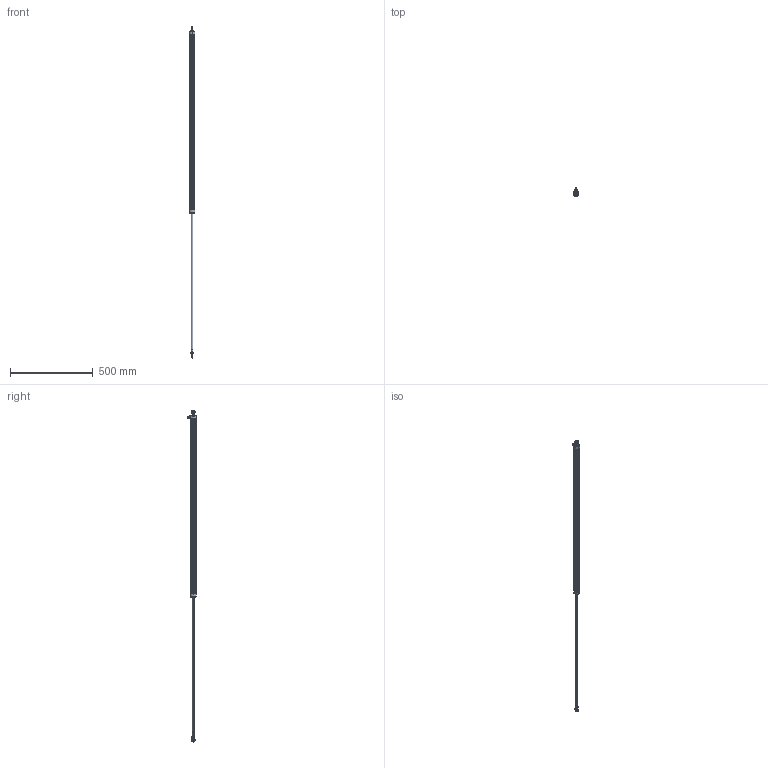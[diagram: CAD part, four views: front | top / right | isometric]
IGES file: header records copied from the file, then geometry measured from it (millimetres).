
Start section: SolidWorks IGES file using analytic representation for surfaces
Global section: file name: I:\Zeichnungen_EK-VM\ZUR BEARBEITUNG\neu_sz\LWG\Bew\0825.IGS; native system: SolidWorks 2009; preprocessor: SolidWorks 2009; author: salzinger; date: 090129.111825; units: millimetre
Bounding box: 35.03 x 49.52 x 2007.6 mm (x, y, z)
Volume: 1111411.5 mm3; surface area: 205256.3 mm2
Topology: 16 solids, 16 shells, 996 faces, 5311 edges, 6841 vertices
Faces by surface type: revolution 515, plane 294, bspline 187
